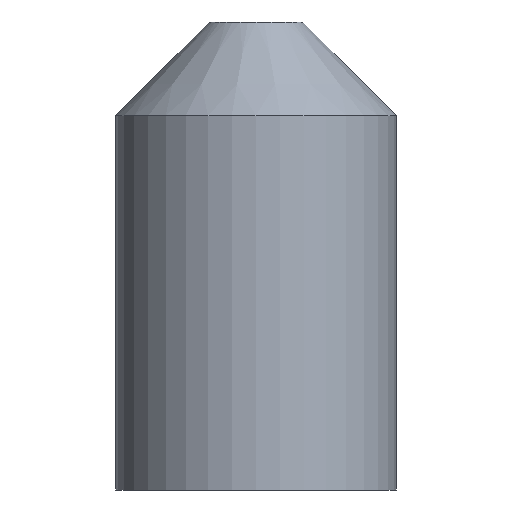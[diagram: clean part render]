
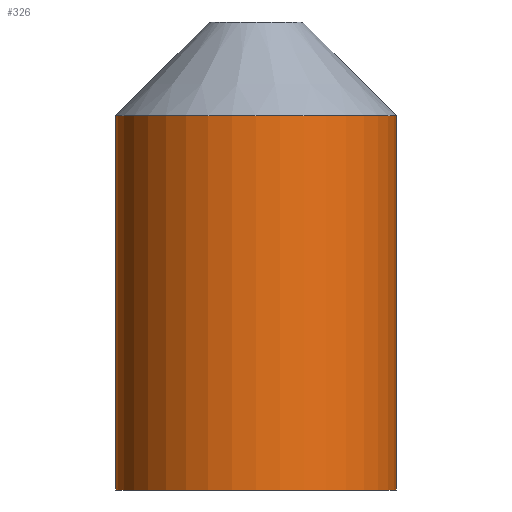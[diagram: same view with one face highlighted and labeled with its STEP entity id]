
A CAD part, front view. The second image highlights one B-rep face of the part: STEP entity #326.
In plain terms, the highlighted cylindrical face has radius 3 mm (diameter 6 mm), a partial arc.
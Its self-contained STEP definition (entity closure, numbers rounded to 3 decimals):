
#13 = CARTESIAN_POINT ( 'NONE',  ( -5.721, 7.015, 8. ) ) ;
#19 = VECTOR ( 'NONE', #223, 1000. ) ;
#24 = DIRECTION ( 'NONE',  ( 0., 0., -1. ) ) ;
#38 = CIRCLE ( 'NONE', #103, 3. ) ;
#49 = ORIENTED_EDGE ( 'NONE', *, *, #381, .T. ) ;
#55 = ORIENTED_EDGE ( 'NONE', *, *, #112, .T. ) ;
#65 = CARTESIAN_POINT ( 'NONE',  ( -8.721, 7.015, 10. ) ) ;
#66 = VECTOR ( 'NONE', #264, 1000. ) ;
#67 = EDGE_LOOP ( 'NONE', ( #295, #55, #171, #49 ) ) ;
#85 = DIRECTION ( 'NONE',  ( 1., 0., 0. ) ) ;
#88 = VERTEX_POINT ( 'NONE', #13 ) ;
#89 = CARTESIAN_POINT ( 'NONE',  ( -8.721, 7.015, 8. ) ) ;
#98 = EDGE_CURVE ( 'NONE', #360, #177, #320, .T. ) ;
#103 = AXIS2_PLACEMENT_3D ( 'NONE', #212, #136, #282 ) ;
#112 = EDGE_CURVE ( 'NONE', #88, #360, #243, .T. ) ;
#118 = EDGE_CURVE ( 'NONE', #88, #343, #239, .T. ) ;
#129 = CARTESIAN_POINT ( 'NONE',  ( -11.721, 7.015, 8. ) ) ;
#132 = DIRECTION ( 'NONE',  ( -1., 0., 0. ) ) ;
#136 = DIRECTION ( 'NONE',  ( 0., 0., 1. ) ) ;
#155 = CARTESIAN_POINT ( 'NONE',  ( -11.721, 7.015, 10. ) ) ;
#171 = ORIENTED_EDGE ( 'NONE', *, *, #98, .T. ) ;
#177 = VERTEX_POINT ( 'NONE', #426 ) ;
#212 = CARTESIAN_POINT ( 'NONE',  ( -8.721, 7.015, 0. ) ) ;
#223 = DIRECTION ( 'NONE',  ( 0., 0., -1. ) ) ;
#239 = LINE ( 'NONE', #418, #19 ) ;
#243 = CIRCLE ( 'NONE', #280, 3. ) ;
#258 = FACE_OUTER_BOUND ( 'NONE', #67, .T. ) ;
#264 = DIRECTION ( 'NONE',  ( 0., 0., -1. ) ) ;
#280 = AXIS2_PLACEMENT_3D ( 'NONE', #89, #24, #85 ) ;
#281 = DIRECTION ( 'NONE',  ( 0., 0., -1. ) ) ;
#282 = DIRECTION ( 'NONE',  ( 1., 0., 0. ) ) ;
#295 = ORIENTED_EDGE ( 'NONE', *, *, #118, .F. ) ;
#320 = LINE ( 'NONE', #155, #66 ) ;
#326 = ADVANCED_FACE ( 'NONE', ( #258 ), #349, .T. ) ;
#338 = CARTESIAN_POINT ( 'NONE',  ( -5.721, 7.015, 0. ) ) ;
#343 = VERTEX_POINT ( 'NONE', #338 ) ;
#349 = CYLINDRICAL_SURFACE ( 'NONE', #412, 3. ) ;
#360 = VERTEX_POINT ( 'NONE', #129 ) ;
#381 = EDGE_CURVE ( 'NONE', #177, #343, #38, .T. ) ;
#412 = AXIS2_PLACEMENT_3D ( 'NONE', #65, #281, #132 ) ;
#418 = CARTESIAN_POINT ( 'NONE',  ( -5.721, 7.015, 10. ) ) ;
#426 = CARTESIAN_POINT ( 'NONE',  ( -11.721, 7.015, 0. ) ) ;
